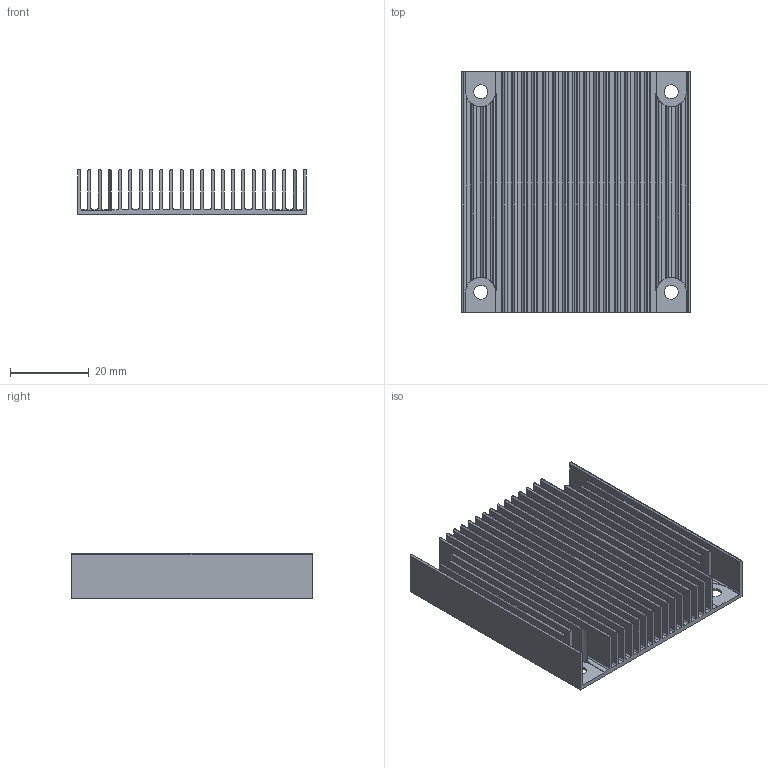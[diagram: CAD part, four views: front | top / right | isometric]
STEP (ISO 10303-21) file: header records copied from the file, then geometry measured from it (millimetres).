
FILE_DESCRIPTION (( 'STEP AP214' ), '1' );
FILE_NAME ('HS1576E_G.STEP', '2023-03-03T18:35:13', ( '' ), ( '' ), 'SwSTEP 2.0', 'SolidWorks 2020', '' );
FILE_SCHEMA (( 'AUTOMOTIVE_DESIGN' ));
Length unit declared in the file: inch
Products named in the file (1): HS1576E_G
Bounding box: 57.91 x 60.96 x 11.43 mm (x, y, z)
Volume: 14441.2 mm3; surface area: 33488.6 mm2
Topology: 1 solids, 1 shells, 201 faces, 585 edges, 390 vertices
Faces by surface type: cylinder 110, plane 91
Entity records: 7215 total; most frequent: CARTESIAN_POINT 1753, ORIENTED_EDGE 1170, DIRECTION 1125, EDGE_CURVE 585, AXIS2_PLACEMENT_3D 390, VERTEX_POINT 390, LINE 345, VECTOR 345
